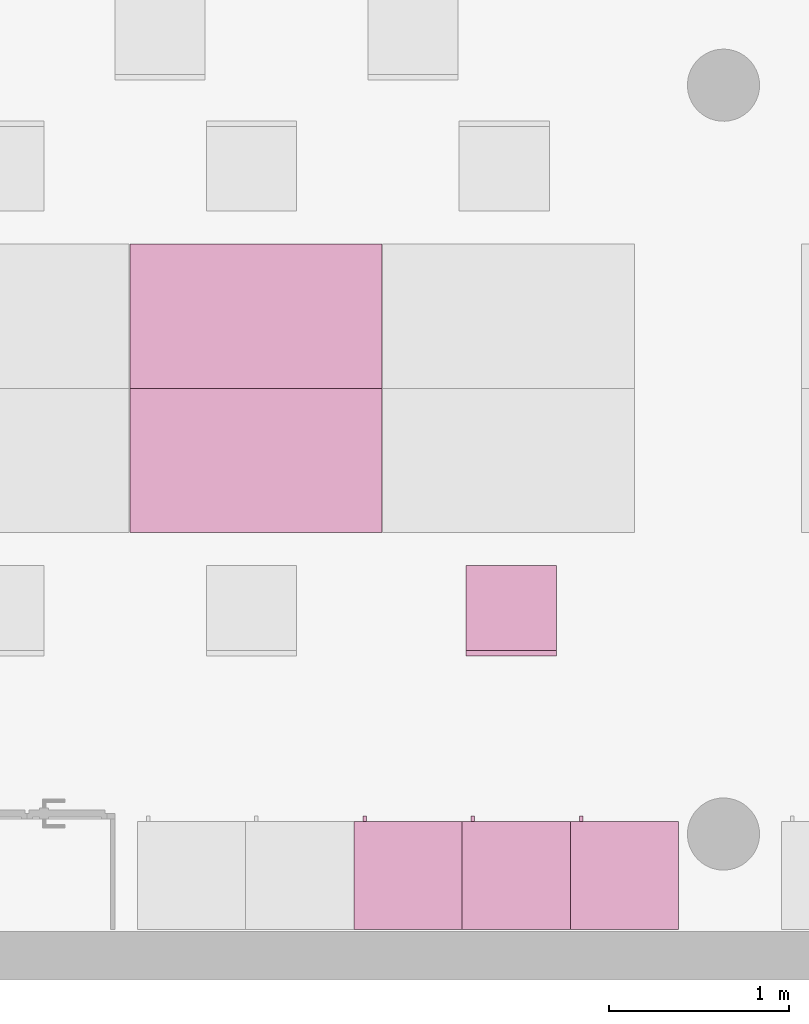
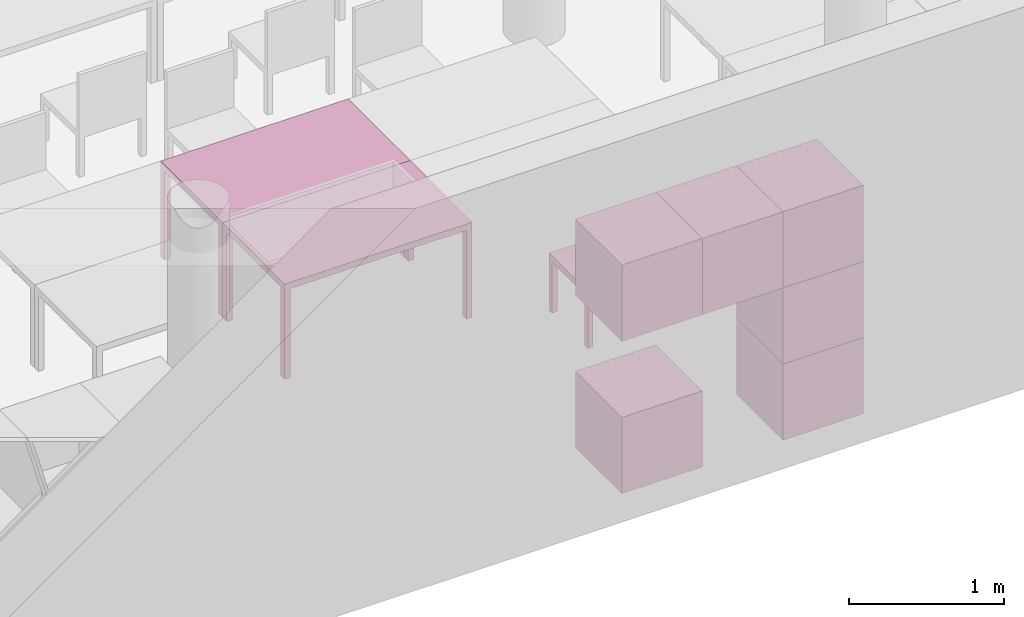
"""IFC4 building model written with IfcOpenShell, lengths in metres."""

from ifc_helpers import new_model, entity, si_unit, converted_unit, derived_unit, frame, origin, place, context, subcontext, project, spatial, faceted_brep, element, save


model = new_model("IFC4")

# Units and contexts
model_context = context("Model", 3, precision=1e-05, world=origin())
body_context = subcontext(model_context, "Body", "Model", "MODEL_VIEW")
ifc_project = project(units=[si_unit("LENGTHUNIT", "METRE"), si_unit("AREAUNIT", "SQUARE_METRE"), si_unit("VOLUMEUNIT", "CUBIC_METRE"), si_unit("MASSUNIT", "GRAM", prefix="KILO"), converted_unit("PLANEANGLEUNIT", "DEGREE", entity("IfcPlaneAngleMeasure", 0.0174532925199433), si_unit("PLANEANGLEUNIT", "RADIAN"), dimensions=[0, 0, 0, 0, 0, 0, 0]), derived_unit("THERMALTRANSMITTANCEUNIT", [(si_unit("POWERUNIT", "WATT"), 1), (si_unit("THERMODYNAMICTEMPERATUREUNIT", "KELVIN"), -1), (si_unit("LENGTHUNIT", "METRE"), -2)]), derived_unit("VOLUMETRICFLOWRATEUNIT", [(si_unit("LENGTHUNIT", "METRE"), 3), (converted_unit("TIMEUNIT", "hour", entity("IfcTimeMeasure", 3600.0), si_unit("TIMEUNIT", "SECOND"), dimensions=[0, 0, 1, 0, 0, 0, 0]), -1), (si_unit("LENGTHUNIT", "METRE"), -1)])], contexts=[model_context])

# Building, storeys
building_placement = place(None, origin())
building = spatial("IfcBuilding", under=ifc_project, at=building_placement, Name="HABITATGE PLURIFAMILIAR", CompositionType="ELEMENT")
storey_1_placement = place(building_placement, frame((0.0, 0.0, 15.28)))
storey_1 = spatial("IfcBuildingStorey", under=building, at=storey_1_placement, Name="PLANTA QUARTA", CompositionType="ELEMENT", Elevation=15.28)
storey_2_placement = place(storey_1_placement, frame((0.0, 0.0, 12.27)))
storey_2 = spatial("IfcBuildingStorey", under=storey_1, at=storey_2_placement, Name="NOU", CompositionType="PARTIAL")

# Furniture
furniture_1_placement = place(storey_2_placement, frame((407.443471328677, 15.3194598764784, -12.3699999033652)))
element("IfcFurniture", 1, at=furniture_1_placement, inside=storey_2, Name="Taula 140X80_P4", context=body_context, shape_type="Brep", body=[
    faceted_brep([(0.04375, 0.750069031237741, 0.0), (0.04375, 0.800069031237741, 0.0), (0.0, 0.800069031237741, 0.0), (0.0, 0.750069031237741, 0.0), (0.04375, 0.800069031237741, 0.7), (0.04375, 0.750069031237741, 0.7), (0.0, 0.750069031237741, 0.7), (0.0, 0.800069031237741, 0.7)], [[[0, 1, 2, 3]], [[4, 5, 6, 7]], [[1, 0, 5, 4]], [[2, 1, 4, 7]], [[3, 2, 7, 6]], [[0, 3, 6, 5]]], orient=[[False], [False], [False], [False], [False], [False]]),
    faceted_brep([(0.04375, 0.0, 0.0), (0.04375, 0.05, 0.0), (0.0, 0.05, 0.0), (0.0, 0.0, 0.0), (0.04375, 0.05, 0.7), (0.04375, 0.0, 0.7), (0.0, 0.0, 0.7), (0.0, 0.05, 0.7)], [[[0, 1, 2, 3]], [[4, 5, 6, 7]], [[1, 0, 5, 4]], [[2, 1, 4, 7]], [[3, 2, 7, 6]], [[0, 3, 6, 5]]], orient=[[False], [False], [False], [False], [False], [False]]),
    faceted_brep([(1.39732768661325, 0.0, 0.7), (1.39732768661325, 0.800069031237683, 0.7), (0.0, 0.800069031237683, 0.7), (0.0, 0.0, 0.7), (1.39732768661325, 0.800069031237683, 0.75), (1.39732768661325, 0.0, 0.75), (0.0, 0.0, 0.75), (0.0, 0.800069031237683, 0.75)], [[[0, 1, 2, 3]], [[4, 5, 6, 7]], [[1, 0, 5, 4]], [[2, 1, 4, 7]], [[3, 2, 7, 6]], [[0, 3, 6, 5]]], orient=[[False], [False], [False], [False], [False], [False]]),
    faceted_brep([(1.39732768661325, 0.750069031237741, 0.0), (1.39732768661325, 0.800069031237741, 0.0), (1.35357768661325, 0.800069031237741, 0.0), (1.35357768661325, 0.750069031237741, 0.0), (1.39732768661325, 0.800069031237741, 0.7), (1.39732768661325, 0.750069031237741, 0.7), (1.35357768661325, 0.750069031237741, 0.7), (1.35357768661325, 0.800069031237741, 0.7)], [[[0, 1, 2, 3]], [[4, 5, 6, 7]], [[1, 0, 5, 4]], [[2, 1, 4, 7]], [[3, 2, 7, 6]], [[0, 3, 6, 5]]], orient=[[False], [False], [False], [False], [False], [False]]),
    faceted_brep([(1.39732768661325, 0.0, 0.0), (1.39732768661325, 0.05, 0.0), (1.35357768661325, 0.05, 0.0), (1.35357768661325, 0.0, 0.0), (1.39732768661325, 0.05, 0.7), (1.39732768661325, 0.0, 0.7), (1.35357768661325, 0.0, 0.7), (1.35357768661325, 0.05, 0.7)], [[[0, 1, 2, 3]], [[4, 5, 6, 7]], [[1, 0, 5, 4]], [[2, 1, 4, 7]], [[3, 2, 7, 6]], [[0, 3, 6, 5]]], orient=[[False], [False], [False], [False], [False], [False]]),
])
furniture_2_placement = place(storey_2_placement, frame((407.443471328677, 16.1195289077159, -12.3699999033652)))
element("IfcFurniture", 2, at=furniture_2_placement, inside=storey_2, Name="Taula 140X80_P4", context=body_context, shape_type="Brep", body=[
    faceted_brep([(0.04375, 0.05, 0.0), (0.0, 0.05, 0.0), (0.0, 0.0, 0.0), (0.04375, 0.0, 0.0), (0.04375, 0.0, 0.7), (0.0, 0.0, 0.7), (0.0, 0.05, 0.7), (0.04375, 0.05, 0.7)], [[[0, 1, 2, 3]], [[4, 5, 6, 7]], [[3, 4, 7, 0]], [[2, 5, 4, 3]], [[1, 6, 5, 2]], [[0, 7, 6, 1]]], orient=[[False], [False], [False], [False], [False], [False]]),
    faceted_brep([(0.04375, 0.800069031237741, 0.0), (0.0, 0.800069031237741, 0.0), (0.0, 0.750069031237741, 0.0), (0.04375, 0.750069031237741, 0.0), (0.04375, 0.750069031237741, 0.7), (0.0, 0.750069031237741, 0.7), (0.0, 0.800069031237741, 0.7), (0.04375, 0.800069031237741, 0.7)], [[[0, 1, 2, 3]], [[4, 5, 6, 7]], [[3, 4, 7, 0]], [[2, 5, 4, 3]], [[1, 6, 5, 2]], [[0, 7, 6, 1]]], orient=[[False], [False], [False], [False], [False], [False]]),
    faceted_brep([(1.39732768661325, 0.800069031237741, 0.7), (0.0, 0.800069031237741, 0.7), (0.0, 0.0, 0.7), (1.39732768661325, 0.0, 0.7), (1.39732768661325, 0.0, 0.75), (0.0, 0.0, 0.75), (0.0, 0.800069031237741, 0.75), (1.39732768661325, 0.800069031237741, 0.75)], [[[0, 1, 2, 3]], [[4, 5, 6, 7]], [[3, 4, 7, 0]], [[2, 5, 4, 3]], [[1, 6, 5, 2]], [[0, 7, 6, 1]]], orient=[[False], [False], [False], [False], [False], [False]]),
    faceted_brep([(1.39732768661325, 0.05, 0.0), (1.35357768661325, 0.05, 0.0), (1.35357768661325, 0.0, 0.0), (1.39732768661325, 0.0, 0.0), (1.39732768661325, 0.0, 0.7), (1.35357768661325, 0.0, 0.7), (1.35357768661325, 0.05, 0.7), (1.39732768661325, 0.05, 0.7)], [[[0, 1, 2, 3]], [[4, 5, 6, 7]], [[3, 4, 7, 0]], [[2, 5, 4, 3]], [[1, 6, 5, 2]], [[0, 7, 6, 1]]], orient=[[False], [False], [False], [False], [False], [False]]),
    faceted_brep([(1.39732768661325, 0.800069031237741, 0.0), (1.35357768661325, 0.800069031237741, 0.0), (1.35357768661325, 0.750069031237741, 0.0), (1.39732768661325, 0.750069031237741, 0.0), (1.39732768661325, 0.750069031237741, 0.7), (1.35357768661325, 0.750069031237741, 0.7), (1.35357768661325, 0.800069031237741, 0.7), (1.39732768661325, 0.800069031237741, 0.7)], [[[0, 1, 2, 3]], [[4, 5, 6, 7]], [[3, 4, 7, 0]], [[2, 5, 4, 3]], [[1, 6, 5, 2]], [[0, 7, 6, 1]]], orient=[[False], [False], [False], [False], [False], [False]]),
])
furniture_3_placement = place(storey_2_placement, frame((409.88527037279, 13.1194598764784, -12.37)))
element("IfcFurniture", 3, at=furniture_3_placement, inside=storey_2, Name="Armai 60x60x60_P4", context=body_context, shape_type="Brep", body=[
    faceted_brep([(0.0, 0.6, 0.02), (0.0, 0.6, 0.0), (0.6, 0.6, 0.0), (0.6, 0.6, 0.02), (0.6, 0.0, 0.0), (0.6, 0.0, 0.02), (0.0, 0.0, 0.0), (0.0, 0.0, 0.02)], [[[0, 1, 2, 3]], [[3, 2, 4, 5]], [[5, 4, 6, 7]], [[7, 6, 1, 0]], [[0, 3, 5, 7]], [[1, 6, 4, 2]]], orient=[[False], [False], [False], [False], [False], [False]]),
    faceted_brep([(0.580000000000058, 0.0, 0.58), (0.580000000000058, 0.0200000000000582, 0.58), (0.580000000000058, 0.0200000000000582, 0.02), (0.580000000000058, 0.0, 0.02), (0.0200000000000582, 0.0200000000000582, 0.02), (0.0200000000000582, 0.0, 0.02), (0.0200000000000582, 0.0200000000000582, 0.58), (0.0200000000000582, 0.0, 0.58)], [[[0, 1, 2, 3]], [[3, 2, 4, 5]], [[5, 4, 6, 7]], [[7, 6, 1, 0]], [[0, 3, 5, 7]], [[1, 6, 4, 2]]], orient=[[False], [False], [False], [False], [False], [False]]),
    faceted_brep([(0.0200000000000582, 0.6, 0.58), (0.0, 0.6, 0.58), (0.0, 0.6, 0.02), (0.0200000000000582, 0.6, 0.02), (0.0, 0.0, 0.02), (0.0200000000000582, 0.0, 0.02), (0.0, 0.0, 0.58), (0.0200000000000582, 0.0, 0.58)], [[[0, 1, 2, 3]], [[3, 2, 4, 5]], [[5, 4, 6, 7]], [[7, 6, 1, 0]], [[0, 3, 5, 7]], [[1, 6, 4, 2]]], orient=[[False], [False], [False], [False], [False], [False]]),
    faceted_brep([(0.0, 0.58, 0.58), (0.0, 0.6, 0.58), (0.0, 0.6, 0.02), (0.0, 0.58, 0.02), (0.02, 0.6, 0.02), (0.02, 0.58, 0.02), (0.02, 0.6, 0.58), (0.02, 0.58, 0.58)], [[[0, 1, 2, 3]], [[3, 2, 4, 5]], [[5, 4, 6, 7]], [[7, 6, 1, 0]], [[0, 3, 5, 7]], [[1, 6, 4, 2]]], orient=[[False], [False], [False], [False], [False], [False]]),
    faceted_brep([(0.6, 0.6, 0.58), (0.58, 0.6, 0.58), (0.58, 0.6, 0.02), (0.6, 0.6, 0.02), (0.58, 0.0, 0.02), (0.6, 0.0, 0.02), (0.58, 0.0, 0.58), (0.6, 0.0, 0.58)], [[[0, 1, 2, 3]], [[3, 2, 4, 5]], [[5, 4, 6, 7]], [[7, 6, 1, 0]], [[0, 3, 5, 7]], [[1, 6, 4, 2]]], orient=[[False], [False], [False], [False], [False], [False]]),
    faceted_brep([(0.0, 0.600000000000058, 0.6), (0.0, 0.600000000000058, 0.58), (0.600000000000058, 0.600000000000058, 0.58), (0.600000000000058, 0.600000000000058, 0.6), (0.600000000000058, 0.0, 0.58), (0.600000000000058, 0.0, 0.6), (0.0, 0.0, 0.58), (0.0, 0.0, 0.6)], [[[0, 1, 2, 3]], [[3, 2, 4, 5]], [[5, 4, 6, 7]], [[7, 6, 1, 0]], [[0, 3, 5, 7]], [[1, 6, 4, 2]]], orient=[[False], [False], [False], [False], [False], [False]]),
    faceted_brep([(0.580000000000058, 0.580000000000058, 0.58), (0.580000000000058, 0.600000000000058, 0.58), (0.580000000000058, 0.600000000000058, 0.02), (0.580000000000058, 0.580000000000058, 0.02), (0.02, 0.600000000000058, 0.02), (0.02, 0.580000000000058, 0.02), (0.02, 0.600000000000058, 0.58), (0.02, 0.580000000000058, 0.58)], [[[0, 1, 2, 3]], [[3, 2, 4, 5]], [[5, 4, 6, 7]], [[7, 6, 1, 0]], [[0, 3, 5, 7]], [[1, 6, 4, 2]]], orient=[[False], [False], [False], [False], [False], [False]]),
    faceted_brep([(0.0700000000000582, 0.600000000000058, 0.358064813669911), (0.0700000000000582, 0.630000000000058, 0.358064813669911), (0.0700000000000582, 0.630000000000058, 0.258064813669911), (0.0700000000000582, 0.600000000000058, 0.258064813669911), (0.0500000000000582, 0.630000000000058, 0.258064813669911), (0.0500000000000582, 0.600000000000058, 0.258064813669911), (0.0500000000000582, 0.630000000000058, 0.358064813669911), (0.0500000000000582, 0.600000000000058, 0.358064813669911)], [[[0, 1, 2, 3]], [[3, 2, 4, 5]], [[5, 4, 6, 7]], [[7, 6, 1, 0]], [[0, 3, 5, 7]], [[1, 6, 4, 2]]], orient=[[False], [False], [False], [False], [False], [False]]),
])
furniture_4_placement = place(storey_2_placement, frame((409.88527037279, 13.1194598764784, -11.77)))
element("IfcFurniture", 4, at=furniture_4_placement, inside=storey_2, Name="Armai 60x60x60_P4", context=body_context, shape_type="Brep", body=[
    faceted_brep([(0.0, 0.6, 0.02), (0.0, 0.6, 0.0), (0.6, 0.6, 0.0), (0.6, 0.6, 0.02), (0.6, 0.0, 0.0), (0.6, 0.0, 0.02), (0.0, 0.0, 0.0), (0.0, 0.0, 0.02)], [[[0, 1, 2, 3]], [[3, 2, 4, 5]], [[5, 4, 6, 7]], [[7, 6, 1, 0]], [[0, 3, 5, 7]], [[1, 6, 4, 2]]], orient=[[False], [False], [False], [False], [False], [False]]),
    faceted_brep([(0.580000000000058, 0.0, 0.58), (0.580000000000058, 0.0200000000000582, 0.58), (0.580000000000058, 0.0200000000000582, 0.02), (0.580000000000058, 0.0, 0.02), (0.0200000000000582, 0.0200000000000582, 0.02), (0.0200000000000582, 0.0, 0.02), (0.0200000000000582, 0.0200000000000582, 0.58), (0.0200000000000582, 0.0, 0.58)], [[[0, 1, 2, 3]], [[3, 2, 4, 5]], [[5, 4, 6, 7]], [[7, 6, 1, 0]], [[0, 3, 5, 7]], [[1, 6, 4, 2]]], orient=[[False], [False], [False], [False], [False], [False]]),
    faceted_brep([(0.0200000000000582, 0.6, 0.58), (0.0, 0.6, 0.58), (0.0, 0.6, 0.02), (0.0200000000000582, 0.6, 0.02), (0.0, 0.0, 0.02), (0.0200000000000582, 0.0, 0.02), (0.0, 0.0, 0.58), (0.0200000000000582, 0.0, 0.58)], [[[0, 1, 2, 3]], [[3, 2, 4, 5]], [[5, 4, 6, 7]], [[7, 6, 1, 0]], [[0, 3, 5, 7]], [[1, 6, 4, 2]]], orient=[[False], [False], [False], [False], [False], [False]]),
    faceted_brep([(0.0, 0.58, 0.58), (0.0, 0.6, 0.58), (0.0, 0.6, 0.02), (0.0, 0.58, 0.02), (0.02, 0.6, 0.02), (0.02, 0.58, 0.02), (0.02, 0.6, 0.58), (0.02, 0.58, 0.58)], [[[0, 1, 2, 3]], [[3, 2, 4, 5]], [[5, 4, 6, 7]], [[7, 6, 1, 0]], [[0, 3, 5, 7]], [[1, 6, 4, 2]]], orient=[[False], [False], [False], [False], [False], [False]]),
    faceted_brep([(0.6, 0.6, 0.58), (0.58, 0.6, 0.58), (0.58, 0.6, 0.02), (0.6, 0.6, 0.02), (0.58, 0.0, 0.02), (0.6, 0.0, 0.02), (0.58, 0.0, 0.58), (0.6, 0.0, 0.58)], [[[0, 1, 2, 3]], [[3, 2, 4, 5]], [[5, 4, 6, 7]], [[7, 6, 1, 0]], [[0, 3, 5, 7]], [[1, 6, 4, 2]]], orient=[[False], [False], [False], [False], [False], [False]]),
    faceted_brep([(0.0, 0.600000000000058, 0.6), (0.0, 0.600000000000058, 0.58), (0.600000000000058, 0.600000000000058, 0.58), (0.600000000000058, 0.600000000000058, 0.6), (0.600000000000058, 0.0, 0.58), (0.600000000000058, 0.0, 0.6), (0.0, 0.0, 0.58), (0.0, 0.0, 0.6)], [[[0, 1, 2, 3]], [[3, 2, 4, 5]], [[5, 4, 6, 7]], [[7, 6, 1, 0]], [[0, 3, 5, 7]], [[1, 6, 4, 2]]], orient=[[False], [False], [False], [False], [False], [False]]),
    faceted_brep([(0.580000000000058, 0.580000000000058, 0.58), (0.580000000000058, 0.600000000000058, 0.58), (0.580000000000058, 0.600000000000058, 0.02), (0.580000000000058, 0.580000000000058, 0.02), (0.02, 0.600000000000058, 0.02), (0.02, 0.580000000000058, 0.02), (0.02, 0.600000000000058, 0.58), (0.02, 0.580000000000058, 0.58)], [[[0, 1, 2, 3]], [[3, 2, 4, 5]], [[5, 4, 6, 7]], [[7, 6, 1, 0]], [[0, 3, 5, 7]], [[1, 6, 4, 2]]], orient=[[False], [False], [False], [False], [False], [False]]),
    faceted_brep([(0.0700000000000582, 0.600000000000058, 0.358064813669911), (0.0700000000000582, 0.630000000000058, 0.358064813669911), (0.0700000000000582, 0.630000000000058, 0.258064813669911), (0.0700000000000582, 0.600000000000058, 0.258064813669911), (0.0500000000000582, 0.630000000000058, 0.258064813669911), (0.0500000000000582, 0.600000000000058, 0.258064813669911), (0.0500000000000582, 0.630000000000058, 0.358064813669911), (0.0500000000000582, 0.600000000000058, 0.358064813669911)], [[[0, 1, 2, 3]], [[3, 2, 4, 5]], [[5, 4, 6, 7]], [[7, 6, 1, 0]], [[0, 3, 5, 7]], [[1, 6, 4, 2]]], orient=[[False], [False], [False], [False], [False], [False]]),
])
furniture_5_placement = place(storey_2_placement, frame((408.68527037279, 13.1194598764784, -11.17)))
element("IfcFurniture", 5, at=furniture_5_placement, inside=storey_2, Name="Armai 60x60x60_P4", context=body_context, shape_type="Brep", body=[
    faceted_brep([(0.0, 0.6, 0.02), (0.0, 0.6, 0.0), (0.6, 0.6, 0.0), (0.6, 0.6, 0.02), (0.6, 0.0, 0.0), (0.6, 0.0, 0.02), (0.0, 0.0, 0.0), (0.0, 0.0, 0.02)], [[[0, 1, 2, 3]], [[3, 2, 4, 5]], [[5, 4, 6, 7]], [[7, 6, 1, 0]], [[0, 3, 5, 7]], [[1, 6, 4, 2]]], orient=[[False], [False], [False], [False], [False], [False]]),
    faceted_brep([(0.580000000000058, 0.0, 0.58), (0.580000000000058, 0.0200000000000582, 0.58), (0.580000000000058, 0.0200000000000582, 0.02), (0.580000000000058, 0.0, 0.02), (0.0200000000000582, 0.0200000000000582, 0.02), (0.0200000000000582, 0.0, 0.02), (0.0200000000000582, 0.0200000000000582, 0.58), (0.0200000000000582, 0.0, 0.58)], [[[0, 1, 2, 3]], [[3, 2, 4, 5]], [[5, 4, 6, 7]], [[7, 6, 1, 0]], [[0, 3, 5, 7]], [[1, 6, 4, 2]]], orient=[[False], [False], [False], [False], [False], [False]]),
    faceted_brep([(0.0200000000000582, 0.6, 0.58), (0.0, 0.6, 0.58), (0.0, 0.6, 0.02), (0.0200000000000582, 0.6, 0.02), (0.0, 0.0, 0.02), (0.0200000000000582, 0.0, 0.02), (0.0, 0.0, 0.58), (0.0200000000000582, 0.0, 0.58)], [[[0, 1, 2, 3]], [[3, 2, 4, 5]], [[5, 4, 6, 7]], [[7, 6, 1, 0]], [[0, 3, 5, 7]], [[1, 6, 4, 2]]], orient=[[False], [False], [False], [False], [False], [False]]),
    faceted_brep([(0.0, 0.58, 0.58), (0.0, 0.6, 0.58), (0.0, 0.6, 0.02), (0.0, 0.58, 0.02), (0.02, 0.6, 0.02), (0.02, 0.58, 0.02), (0.02, 0.6, 0.58), (0.02, 0.58, 0.58)], [[[0, 1, 2, 3]], [[3, 2, 4, 5]], [[5, 4, 6, 7]], [[7, 6, 1, 0]], [[0, 3, 5, 7]], [[1, 6, 4, 2]]], orient=[[False], [False], [False], [False], [False], [False]]),
    faceted_brep([(0.6, 0.6, 0.58), (0.58, 0.6, 0.58), (0.58, 0.6, 0.02), (0.6, 0.6, 0.02), (0.58, 0.0, 0.02), (0.6, 0.0, 0.02), (0.58, 0.0, 0.58), (0.6, 0.0, 0.58)], [[[0, 1, 2, 3]], [[3, 2, 4, 5]], [[5, 4, 6, 7]], [[7, 6, 1, 0]], [[0, 3, 5, 7]], [[1, 6, 4, 2]]], orient=[[False], [False], [False], [False], [False], [False]]),
    faceted_brep([(0.0, 0.600000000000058, 0.6), (0.0, 0.600000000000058, 0.58), (0.600000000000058, 0.600000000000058, 0.58), (0.600000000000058, 0.600000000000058, 0.6), (0.600000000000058, 0.0, 0.58), (0.600000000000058, 0.0, 0.6), (0.0, 0.0, 0.58), (0.0, 0.0, 0.6)], [[[0, 1, 2, 3]], [[3, 2, 4, 5]], [[5, 4, 6, 7]], [[7, 6, 1, 0]], [[0, 3, 5, 7]], [[1, 6, 4, 2]]], orient=[[False], [False], [False], [False], [False], [False]]),
    faceted_brep([(0.580000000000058, 0.580000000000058, 0.58), (0.580000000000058, 0.600000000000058, 0.58), (0.580000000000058, 0.600000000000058, 0.02), (0.580000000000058, 0.580000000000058, 0.02), (0.02, 0.600000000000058, 0.02), (0.02, 0.580000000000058, 0.02), (0.02, 0.600000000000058, 0.58), (0.02, 0.580000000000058, 0.58)], [[[0, 1, 2, 3]], [[3, 2, 4, 5]], [[5, 4, 6, 7]], [[7, 6, 1, 0]], [[0, 3, 5, 7]], [[1, 6, 4, 2]]], orient=[[False], [False], [False], [False], [False], [False]]),
    faceted_brep([(0.0700000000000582, 0.600000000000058, 0.358064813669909), (0.0700000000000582, 0.630000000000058, 0.358064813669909), (0.0700000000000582, 0.630000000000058, 0.258064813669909), (0.0700000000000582, 0.600000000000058, 0.258064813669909), (0.0500000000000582, 0.630000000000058, 0.258064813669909), (0.0500000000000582, 0.600000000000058, 0.258064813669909), (0.0500000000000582, 0.630000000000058, 0.358064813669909), (0.0500000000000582, 0.600000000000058, 0.358064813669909)], [[[0, 1, 2, 3]], [[3, 2, 4, 5]], [[5, 4, 6, 7]], [[7, 6, 1, 0]], [[0, 3, 5, 7]], [[1, 6, 4, 2]]], orient=[[False], [False], [False], [False], [False], [False]]),
])
furniture_6_placement = place(storey_2_placement, frame((409.28527037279, 13.1194598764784, -11.17)))
element("IfcFurniture", 6, at=furniture_6_placement, inside=storey_2, Name="Armai 60x60x60_P4", context=body_context, shape_type="Brep", body=[
    faceted_brep([(0.0, 0.6, 0.02), (0.0, 0.6, 0.0), (0.6, 0.6, 0.0), (0.6, 0.6, 0.02), (0.6, 0.0, 0.0), (0.6, 0.0, 0.02), (0.0, 0.0, 0.0), (0.0, 0.0, 0.02)], [[[0, 1, 2, 3]], [[3, 2, 4, 5]], [[5, 4, 6, 7]], [[7, 6, 1, 0]], [[0, 3, 5, 7]], [[1, 6, 4, 2]]], orient=[[False], [False], [False], [False], [False], [False]]),
    faceted_brep([(0.580000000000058, 0.0, 0.58), (0.580000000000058, 0.0200000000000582, 0.58), (0.580000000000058, 0.0200000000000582, 0.02), (0.580000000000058, 0.0, 0.02), (0.0200000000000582, 0.0200000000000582, 0.02), (0.0200000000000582, 0.0, 0.02), (0.0200000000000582, 0.0200000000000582, 0.58), (0.0200000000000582, 0.0, 0.58)], [[[0, 1, 2, 3]], [[3, 2, 4, 5]], [[5, 4, 6, 7]], [[7, 6, 1, 0]], [[0, 3, 5, 7]], [[1, 6, 4, 2]]], orient=[[False], [False], [False], [False], [False], [False]]),
    faceted_brep([(0.0200000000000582, 0.6, 0.58), (0.0, 0.6, 0.58), (0.0, 0.6, 0.02), (0.0200000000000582, 0.6, 0.02), (0.0, 0.0, 0.02), (0.0200000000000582, 0.0, 0.02), (0.0, 0.0, 0.58), (0.0200000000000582, 0.0, 0.58)], [[[0, 1, 2, 3]], [[3, 2, 4, 5]], [[5, 4, 6, 7]], [[7, 6, 1, 0]], [[0, 3, 5, 7]], [[1, 6, 4, 2]]], orient=[[False], [False], [False], [False], [False], [False]]),
    faceted_brep([(0.0, 0.58, 0.58), (0.0, 0.6, 0.58), (0.0, 0.6, 0.02), (0.0, 0.58, 0.02), (0.02, 0.6, 0.02), (0.02, 0.58, 0.02), (0.02, 0.6, 0.58), (0.02, 0.58, 0.58)], [[[0, 1, 2, 3]], [[3, 2, 4, 5]], [[5, 4, 6, 7]], [[7, 6, 1, 0]], [[0, 3, 5, 7]], [[1, 6, 4, 2]]], orient=[[False], [False], [False], [False], [False], [False]]),
    faceted_brep([(0.6, 0.6, 0.58), (0.58, 0.6, 0.58), (0.58, 0.6, 0.02), (0.6, 0.6, 0.02), (0.58, 0.0, 0.02), (0.6, 0.0, 0.02), (0.58, 0.0, 0.58), (0.6, 0.0, 0.58)], [[[0, 1, 2, 3]], [[3, 2, 4, 5]], [[5, 4, 6, 7]], [[7, 6, 1, 0]], [[0, 3, 5, 7]], [[1, 6, 4, 2]]], orient=[[False], [False], [False], [False], [False], [False]]),
    faceted_brep([(0.0, 0.600000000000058, 0.6), (0.0, 0.600000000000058, 0.58), (0.600000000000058, 0.600000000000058, 0.58), (0.600000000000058, 0.600000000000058, 0.6), (0.600000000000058, 0.0, 0.58), (0.600000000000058, 0.0, 0.6), (0.0, 0.0, 0.58), (0.0, 0.0, 0.6)], [[[0, 1, 2, 3]], [[3, 2, 4, 5]], [[5, 4, 6, 7]], [[7, 6, 1, 0]], [[0, 3, 5, 7]], [[1, 6, 4, 2]]], orient=[[False], [False], [False], [False], [False], [False]]),
    faceted_brep([(0.580000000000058, 0.580000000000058, 0.58), (0.580000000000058, 0.600000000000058, 0.58), (0.580000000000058, 0.600000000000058, 0.02), (0.580000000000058, 0.580000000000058, 0.02), (0.02, 0.600000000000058, 0.02), (0.02, 0.580000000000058, 0.02), (0.02, 0.600000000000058, 0.58), (0.02, 0.580000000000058, 0.58)], [[[0, 1, 2, 3]], [[3, 2, 4, 5]], [[5, 4, 6, 7]], [[7, 6, 1, 0]], [[0, 3, 5, 7]], [[1, 6, 4, 2]]], orient=[[False], [False], [False], [False], [False], [False]]),
    faceted_brep([(0.0700000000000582, 0.600000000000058, 0.358064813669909), (0.0700000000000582, 0.630000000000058, 0.358064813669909), (0.0700000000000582, 0.630000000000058, 0.258064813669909), (0.0700000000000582, 0.600000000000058, 0.258064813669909), (0.0500000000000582, 0.630000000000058, 0.258064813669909), (0.0500000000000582, 0.600000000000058, 0.258064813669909), (0.0500000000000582, 0.630000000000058, 0.358064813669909), (0.0500000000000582, 0.600000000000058, 0.358064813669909)], [[[0, 1, 2, 3]], [[3, 2, 4, 5]], [[5, 4, 6, 7]], [[7, 6, 1, 0]], [[0, 3, 5, 7]], [[1, 6, 4, 2]]], orient=[[False], [False], [False], [False], [False], [False]]),
])
furniture_7_placement = place(storey_2_placement, frame((409.88527037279, 13.1194598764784, -11.17)))
element("IfcFurniture", 7, at=furniture_7_placement, inside=storey_2, Name="Armai 60x60x60_P4", context=body_context, shape_type="Brep", body=[
    faceted_brep([(0.0, 0.6, 0.02), (0.0, 0.6, 0.0), (0.6, 0.6, 0.0), (0.6, 0.6, 0.02), (0.6, 0.0, 0.0), (0.6, 0.0, 0.02), (0.0, 0.0, 0.0), (0.0, 0.0, 0.02)], [[[0, 1, 2, 3]], [[3, 2, 4, 5]], [[5, 4, 6, 7]], [[7, 6, 1, 0]], [[0, 3, 5, 7]], [[1, 6, 4, 2]]], orient=[[False], [False], [False], [False], [False], [False]]),
    faceted_brep([(0.580000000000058, 0.0, 0.58), (0.580000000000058, 0.0200000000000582, 0.58), (0.580000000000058, 0.0200000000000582, 0.02), (0.580000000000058, 0.0, 0.02), (0.0200000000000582, 0.0200000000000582, 0.02), (0.0200000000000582, 0.0, 0.02), (0.0200000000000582, 0.0200000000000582, 0.58), (0.0200000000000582, 0.0, 0.58)], [[[0, 1, 2, 3]], [[3, 2, 4, 5]], [[5, 4, 6, 7]], [[7, 6, 1, 0]], [[0, 3, 5, 7]], [[1, 6, 4, 2]]], orient=[[False], [False], [False], [False], [False], [False]]),
    faceted_brep([(0.0200000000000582, 0.6, 0.58), (0.0, 0.6, 0.58), (0.0, 0.6, 0.02), (0.0200000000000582, 0.6, 0.02), (0.0, 0.0, 0.02), (0.0200000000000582, 0.0, 0.02), (0.0, 0.0, 0.58), (0.0200000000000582, 0.0, 0.58)], [[[0, 1, 2, 3]], [[3, 2, 4, 5]], [[5, 4, 6, 7]], [[7, 6, 1, 0]], [[0, 3, 5, 7]], [[1, 6, 4, 2]]], orient=[[False], [False], [False], [False], [False], [False]]),
    faceted_brep([(0.0, 0.58, 0.58), (0.0, 0.6, 0.58), (0.0, 0.6, 0.02), (0.0, 0.58, 0.02), (0.02, 0.6, 0.02), (0.02, 0.58, 0.02), (0.02, 0.6, 0.58), (0.02, 0.58, 0.58)], [[[0, 1, 2, 3]], [[3, 2, 4, 5]], [[5, 4, 6, 7]], [[7, 6, 1, 0]], [[0, 3, 5, 7]], [[1, 6, 4, 2]]], orient=[[False], [False], [False], [False], [False], [False]]),
    faceted_brep([(0.6, 0.6, 0.58), (0.58, 0.6, 0.58), (0.58, 0.6, 0.02), (0.6, 0.6, 0.02), (0.58, 0.0, 0.02), (0.6, 0.0, 0.02), (0.58, 0.0, 0.58), (0.6, 0.0, 0.58)], [[[0, 1, 2, 3]], [[3, 2, 4, 5]], [[5, 4, 6, 7]], [[7, 6, 1, 0]], [[0, 3, 5, 7]], [[1, 6, 4, 2]]], orient=[[False], [False], [False], [False], [False], [False]]),
    faceted_brep([(0.0, 0.600000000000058, 0.6), (0.0, 0.600000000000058, 0.58), (0.600000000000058, 0.600000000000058, 0.58), (0.600000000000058, 0.600000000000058, 0.6), (0.600000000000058, 0.0, 0.58), (0.600000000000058, 0.0, 0.6), (0.0, 0.0, 0.58), (0.0, 0.0, 0.6)], [[[0, 1, 2, 3]], [[3, 2, 4, 5]], [[5, 4, 6, 7]], [[7, 6, 1, 0]], [[0, 3, 5, 7]], [[1, 6, 4, 2]]], orient=[[False], [False], [False], [False], [False], [False]]),
    faceted_brep([(0.580000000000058, 0.580000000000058, 0.58), (0.580000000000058, 0.600000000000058, 0.58), (0.580000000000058, 0.600000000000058, 0.02), (0.580000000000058, 0.580000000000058, 0.02), (0.02, 0.600000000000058, 0.02), (0.02, 0.580000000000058, 0.02), (0.02, 0.600000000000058, 0.58), (0.02, 0.580000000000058, 0.58)], [[[0, 1, 2, 3]], [[3, 2, 4, 5]], [[5, 4, 6, 7]], [[7, 6, 1, 0]], [[0, 3, 5, 7]], [[1, 6, 4, 2]]], orient=[[False], [False], [False], [False], [False], [False]]),
    faceted_brep([(0.0700000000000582, 0.600000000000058, 0.358064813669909), (0.0700000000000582, 0.630000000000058, 0.358064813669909), (0.0700000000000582, 0.630000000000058, 0.258064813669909), (0.0700000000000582, 0.600000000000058, 0.258064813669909), (0.0500000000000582, 0.630000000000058, 0.258064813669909), (0.0500000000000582, 0.600000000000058, 0.258064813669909), (0.0500000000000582, 0.630000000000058, 0.358064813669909), (0.0500000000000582, 0.600000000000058, 0.358064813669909)], [[[0, 1, 2, 3]], [[3, 2, 4, 5]], [[5, 4, 6, 7]], [[7, 6, 1, 0]], [[0, 3, 5, 7]], [[1, 6, 4, 2]]], orient=[[False], [False], [False], [False], [False], [False]]),
])
furniture_8_placement = place(storey_2_placement, frame((408.68527037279, 13.1194598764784, -12.37)))
element("IfcFurniture", 8, at=furniture_8_placement, inside=storey_2, Name="Armai 60x60x60_P4", context=body_context, shape_type="Brep", body=[
    faceted_brep([(0.0, 0.6, 0.02), (0.0, 0.6, 0.0), (0.6, 0.6, 0.0), (0.6, 0.6, 0.02), (0.6, 0.0, 0.0), (0.6, 0.0, 0.02), (0.0, 0.0, 0.0), (0.0, 0.0, 0.02)], [[[0, 1, 2, 3]], [[3, 2, 4, 5]], [[5, 4, 6, 7]], [[7, 6, 1, 0]], [[0, 3, 5, 7]], [[1, 6, 4, 2]]], orient=[[False], [False], [False], [False], [False], [False]]),
    faceted_brep([(0.580000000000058, 0.0, 0.58), (0.580000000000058, 0.0200000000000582, 0.58), (0.580000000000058, 0.0200000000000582, 0.02), (0.580000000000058, 0.0, 0.02), (0.0200000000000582, 0.0200000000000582, 0.02), (0.0200000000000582, 0.0, 0.02), (0.0200000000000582, 0.0200000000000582, 0.58), (0.0200000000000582, 0.0, 0.58)], [[[0, 1, 2, 3]], [[3, 2, 4, 5]], [[5, 4, 6, 7]], [[7, 6, 1, 0]], [[0, 3, 5, 7]], [[1, 6, 4, 2]]], orient=[[False], [False], [False], [False], [False], [False]]),
    faceted_brep([(0.0200000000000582, 0.6, 0.58), (0.0, 0.6, 0.58), (0.0, 0.6, 0.02), (0.0200000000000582, 0.6, 0.02), (0.0, 0.0, 0.02), (0.0200000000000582, 0.0, 0.02), (0.0, 0.0, 0.58), (0.0200000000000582, 0.0, 0.58)], [[[0, 1, 2, 3]], [[3, 2, 4, 5]], [[5, 4, 6, 7]], [[7, 6, 1, 0]], [[0, 3, 5, 7]], [[1, 6, 4, 2]]], orient=[[False], [False], [False], [False], [False], [False]]),
    faceted_brep([(0.0, 0.58, 0.58), (0.0, 0.6, 0.58), (0.0, 0.6, 0.02), (0.0, 0.58, 0.02), (0.02, 0.6, 0.02), (0.02, 0.58, 0.02), (0.02, 0.6, 0.58), (0.02, 0.58, 0.58)], [[[0, 1, 2, 3]], [[3, 2, 4, 5]], [[5, 4, 6, 7]], [[7, 6, 1, 0]], [[0, 3, 5, 7]], [[1, 6, 4, 2]]], orient=[[False], [False], [False], [False], [False], [False]]),
    faceted_brep([(0.6, 0.6, 0.58), (0.58, 0.6, 0.58), (0.58, 0.6, 0.02), (0.6, 0.6, 0.02), (0.58, 0.0, 0.02), (0.6, 0.0, 0.02), (0.58, 0.0, 0.58), (0.6, 0.0, 0.58)], [[[0, 1, 2, 3]], [[3, 2, 4, 5]], [[5, 4, 6, 7]], [[7, 6, 1, 0]], [[0, 3, 5, 7]], [[1, 6, 4, 2]]], orient=[[False], [False], [False], [False], [False], [False]]),
    faceted_brep([(0.0, 0.600000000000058, 0.6), (0.0, 0.600000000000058, 0.58), (0.600000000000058, 0.600000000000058, 0.58), (0.600000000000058, 0.600000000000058, 0.6), (0.600000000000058, 0.0, 0.58), (0.600000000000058, 0.0, 0.6), (0.0, 0.0, 0.58), (0.0, 0.0, 0.6)], [[[0, 1, 2, 3]], [[3, 2, 4, 5]], [[5, 4, 6, 7]], [[7, 6, 1, 0]], [[0, 3, 5, 7]], [[1, 6, 4, 2]]], orient=[[False], [False], [False], [False], [False], [False]]),
    faceted_brep([(0.580000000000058, 0.580000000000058, 0.58), (0.580000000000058, 0.600000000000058, 0.58), (0.580000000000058, 0.600000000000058, 0.02), (0.580000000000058, 0.580000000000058, 0.02), (0.02, 0.600000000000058, 0.02), (0.02, 0.580000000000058, 0.02), (0.02, 0.600000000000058, 0.58), (0.02, 0.580000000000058, 0.58)], [[[0, 1, 2, 3]], [[3, 2, 4, 5]], [[5, 4, 6, 7]], [[7, 6, 1, 0]], [[0, 3, 5, 7]], [[1, 6, 4, 2]]], orient=[[False], [False], [False], [False], [False], [False]]),
    faceted_brep([(0.0700000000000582, 0.600000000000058, 0.358064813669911), (0.0700000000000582, 0.630000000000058, 0.358064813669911), (0.0700000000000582, 0.630000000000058, 0.258064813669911), (0.0700000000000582, 0.600000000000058, 0.258064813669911), (0.0500000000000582, 0.630000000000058, 0.258064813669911), (0.0500000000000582, 0.600000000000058, 0.258064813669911), (0.0500000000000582, 0.630000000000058, 0.358064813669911), (0.0500000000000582, 0.600000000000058, 0.358064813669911)], [[[0, 1, 2, 3]], [[3, 2, 4, 5]], [[5, 4, 6, 7]], [[7, 6, 1, 0]], [[0, 3, 5, 7]], [[1, 6, 4, 2]]], orient=[[False], [False], [False], [False], [False], [False]]),
])
furniture_9_placement = place(storey_2_placement, frame((409.308161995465, 14.6372469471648, -12.3653305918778)))
element("IfcFurniture", 9, at=furniture_9_placement, inside=storey_2, Name="Cadira d'Oficina_P4", context=body_context, shape_type="Brep", body=[
    faceted_brep([(0.5, 0.5, 0.399999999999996), (0.0, 0.500000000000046, 0.399999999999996), (0.0, 0.0, 0.399999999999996), (0.5, 0.0, 0.399999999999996), (0.5, 0.0, 0.449999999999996), (0.0, 0.0, 0.449999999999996), (0.0, 0.500000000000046, 0.449999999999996), (0.5, 0.5, 0.449999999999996)], [[[0, 1, 2, 3]], [[4, 5, 6, 7]], [[3, 4, 7, 0]], [[2, 5, 4, 3]], [[1, 6, 5, 2]], [[0, 7, 6, 1]]], orient=[[False], [False], [False], [False], [False], [False]]),
    faceted_brep([(0.0, 0.0400000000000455, 0.0), (0.0, 0.0, 0.0), (0.04, 0.0, 0.0), (0.04, 0.0400000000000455, 0.0), (0.04, 0.0400000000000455, 0.4), (0.04, 0.0, 0.4), (0.0, 0.0, 0.4), (0.0, 0.0400000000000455, 0.4)], [[[0, 1, 2, 3]], [[4, 5, 6, 7]], [[3, 4, 7, 0]], [[2, 5, 4, 3]], [[1, 6, 5, 2]], [[0, 7, 6, 1]]], orient=[[False], [False], [False], [False], [False], [False]]),
    faceted_brep([(0.0, 0.500000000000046, 0.0), (0.0, 0.460000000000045, 0.0), (0.04, 0.460000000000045, 0.0), (0.04, 0.500000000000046, 0.0), (0.04, 0.500000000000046, 0.4), (0.04, 0.460000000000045, 0.4), (0.0, 0.460000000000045, 0.4), (0.0, 0.500000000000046, 0.4)], [[[0, 1, 2, 3]], [[4, 5, 6, 7]], [[3, 4, 7, 0]], [[2, 5, 4, 3]], [[1, 6, 5, 2]], [[0, 7, 6, 1]]], orient=[[False], [False], [False], [False], [False], [False]]),
    faceted_brep([(0.46, 0.04, 0.0), (0.46, 0.0, 0.0), (0.5, 0.0, 0.0), (0.5, 0.04, 0.0), (0.5, 0.04, 0.4), (0.5, 0.0, 0.4), (0.46, 0.0, 0.4), (0.46, 0.04, 0.4)], [[[0, 1, 2, 3]], [[4, 5, 6, 7]], [[3, 4, 7, 0]], [[2, 5, 4, 3]], [[1, 6, 5, 2]], [[0, 7, 6, 1]]], orient=[[False], [False], [False], [False], [False], [False]]),
    faceted_brep([(0.46, 0.5, 0.0), (0.46, 0.46, 0.0), (0.5, 0.46, 0.0), (0.5, 0.5, 0.0), (0.5, 0.5, 0.4), (0.5, 0.46, 0.4), (0.46, 0.46, 0.4), (0.46, 0.5, 0.4)], [[[0, 1, 2, 3]], [[4, 5, 6, 7]], [[3, 4, 7, 0]], [[2, 5, 4, 3]], [[1, 6, 5, 2]], [[0, 7, 6, 1]]], orient=[[False], [False], [False], [False], [False], [False]]),
    faceted_brep([(0.0, 0.0300000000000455, 0.45), (0.0, 0.0, 0.45), (0.5, 0.0, 0.45), (0.5, 0.03, 0.45), (0.5, 0.03, 0.9), (0.5, 0.0, 0.9), (0.0, 0.0, 0.9), (0.0, 0.0300000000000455, 0.9)], [[[0, 1, 2, 3]], [[4, 5, 6, 7]], [[3, 4, 7, 0]], [[2, 5, 4, 3]], [[1, 6, 5, 2]], [[0, 7, 6, 1]]], orient=[[False], [False], [False], [False], [False], [False]]),
])

save(model, "model.ifc")
